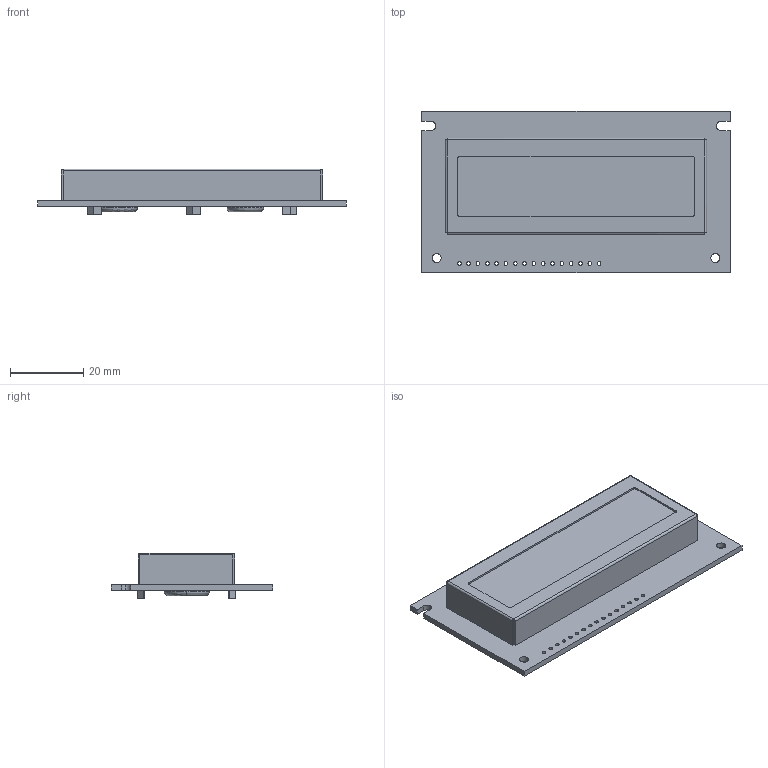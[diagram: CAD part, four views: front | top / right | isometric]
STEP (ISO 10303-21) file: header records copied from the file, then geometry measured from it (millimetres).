
FILE_DESCRIPTION (( 'STEP AP214' ), '1' );
FILE_NAME ('NHD-0216BZ-FL-YBW.STEP', '2018-02-19T22:40:52', ( '' ), ( '' ), 'SwSTEP 2.0', 'SolidWorks 2018', '' );
FILE_SCHEMA (( 'AUTOMOTIVE_DESIGN' ));
Length unit declared in the file: millimetre
Products named in the file (1): NHD-0216BZ-FL-YBW
Bounding box: 84 x 44 x 12.5 mm (x, y, z)
Volume: 21715.4 mm3; surface area: 9769.2 mm2
Topology: 1 solids, 1 shells, 129 faces, 339 edges, 222 vertices
Faces by surface type: bspline 129
Entity records: 4120 total; most frequent: CARTESIAN_POINT 2041, ORIENTED_EDGE 678, EDGE_CURVE 339, B_SPLINE_CURVE_WITH_KNOTS 246, VERTEX_POINT 222, EDGE_LOOP 175, ADVANCED_FACE 129, FACE_OUTER_BOUND 129
